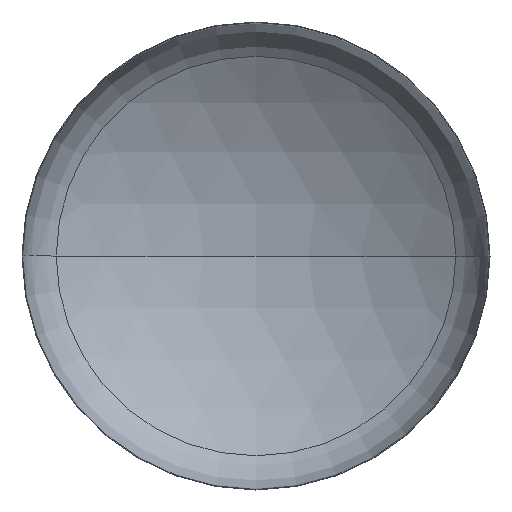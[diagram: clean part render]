
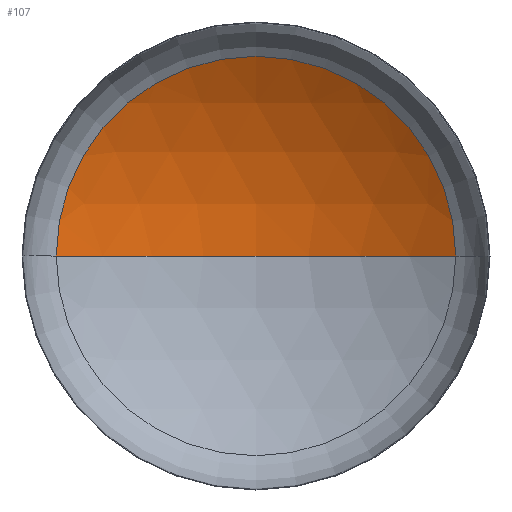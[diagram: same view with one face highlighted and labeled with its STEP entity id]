
A CAD part, front view. The second image highlights one B-rep face of the part: STEP entity #107.
In plain terms, the highlighted spherical face has radius 2720 mm.
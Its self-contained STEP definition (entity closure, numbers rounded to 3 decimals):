
#4 = CIRCLE ( 'NONE', #62, 2720. ) ;
#7 = ORIENTED_EDGE ( 'NONE', *, *, #357, .F. ) ;
#8 = ORIENTED_EDGE ( 'NONE', *, *, #355, .T. ) ;
#13 = EDGE_LOOP ( 'NONE', ( #7, #8, #231 ) ) ;
#42 = VERTEX_POINT ( 'NONE', #211 ) ;
#43 = VERTEX_POINT ( 'NONE', #243 ) ;
#62 = AXIS2_PLACEMENT_3D ( 'NONE', #82, #287, #153 ) ;
#65 = AXIS2_PLACEMENT_3D ( 'NONE', #311, #213, #408 ) ;
#71 = AXIS2_PLACEMENT_3D ( 'NONE', #384, #248, #368 ) ;
#77 = VERTEX_POINT ( 'NONE', #323 ) ;
#82 = CARTESIAN_POINT ( 'NONE',  ( 0., -1836.552, 0. ) ) ;
#107 = ADVANCED_FACE ( 'NONE', ( #218 ), #282, .F. ) ;
#152 = AXIS2_PLACEMENT_3D ( 'NONE', #324, #326, #319 ) ;
#153 = DIRECTION ( 'NONE',  ( 1., 0., 0. ) ) ;
#211 = CARTESIAN_POINT ( 'NONE',  ( -1451.08, 464.05, 0. ) ) ;
#213 = DIRECTION ( 'NONE',  ( 0., 0., -1. ) ) ;
#218 = FACE_OUTER_BOUND ( 'NONE', #13, .T. ) ;
#231 = ORIENTED_EDGE ( 'NONE', *, *, #353, .T. ) ;
#235 = CIRCLE ( 'NONE', #65, 2720. ) ;
#243 = CARTESIAN_POINT ( 'NONE',  ( 1451.08, 464.05, 0. ) ) ;
#248 = DIRECTION ( 'NONE',  ( 0., -1., 0. ) ) ;
#282 = SPHERICAL_SURFACE ( 'NONE', #152, 2720. ) ;
#287 = DIRECTION ( 'NONE',  ( 0., 0., 1. ) ) ;
#311 = CARTESIAN_POINT ( 'NONE',  ( 0., -1836.552, 0. ) ) ;
#319 = DIRECTION ( 'NONE',  ( -1., 0., 0. ) ) ;
#323 = CARTESIAN_POINT ( 'NONE',  ( 0., 883.448, 0. ) ) ;
#324 = CARTESIAN_POINT ( 'NONE',  ( 0., -1836.552, 0. ) ) ;
#326 = DIRECTION ( 'NONE',  ( 0., 0., -1. ) ) ;
#353 = EDGE_CURVE ( 'NONE', #43, #42, #354, .T. ) ;
#354 = CIRCLE ( 'NONE', #71, 1451.08 ) ;
#355 = EDGE_CURVE ( 'NONE', #77, #43, #235, .T. ) ;
#357 = EDGE_CURVE ( 'NONE', #77, #42, #4, .T. ) ;
#368 = DIRECTION ( 'NONE',  ( 1., 0., 0. ) ) ;
#384 = CARTESIAN_POINT ( 'NONE',  ( 0., 464.05, 0. ) ) ;
#408 = DIRECTION ( 'NONE',  ( -1., 0., 0. ) ) ;
